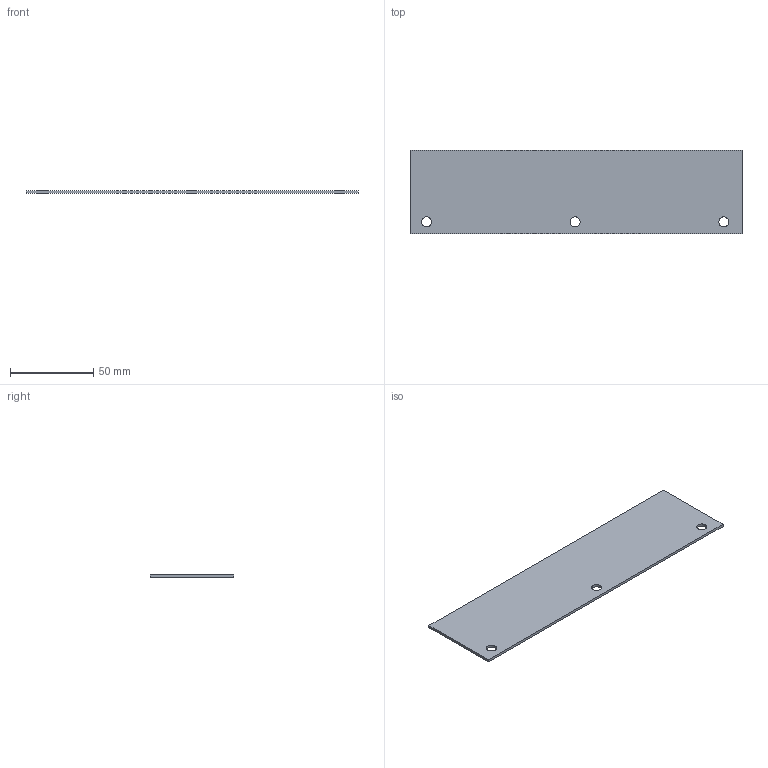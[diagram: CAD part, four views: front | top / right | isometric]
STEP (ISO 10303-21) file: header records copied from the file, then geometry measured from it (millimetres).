
FILE_DESCRIPTION(('KiCad electronic assembly'),'2;1');
FILE_NAME('3dPrinterPCB.step','2025-02-28T20:43:51',('Pcbnew'),('Kicad') ,'Open CASCADE STEP processor 7.8','KiCad to STEP converter','Unknown' );
FILE_SCHEMA(('AUTOMOTIVE_DESIGN { 1 0 10303 214 1 1 1 1 }'));
Length unit declared in the file: millimetre
Products named in the file (2): 3dPrinterPCB 1; 3dPrinterPCB_PCB
Assembly tree (1 placements, depth 2):
  3dPrinterPCB 1
    3dPrinterPCB_PCB
Bounding box: 200 x 50.5 x 1.6 mm (x, y, z)
Volume: 16024.3 mm3; surface area: 20922.4 mm2
Topology: 1 solids, 1 shells, 9 faces, 21 edges, 14 vertices
Faces by surface type: plane 6, cylinder 3
Full cylindrical faces by diameter (mm): 6 x3
Entity records: 310 total; most frequent: DIRECTION 49, CARTESIAN_POINT 46, ORIENTED_EDGE 42, EDGE_CURVE 21, AXIS2_PLACEMENT_3D 17, FACE_BOUND 15, EDGE_LOOP 15, LINE 15
